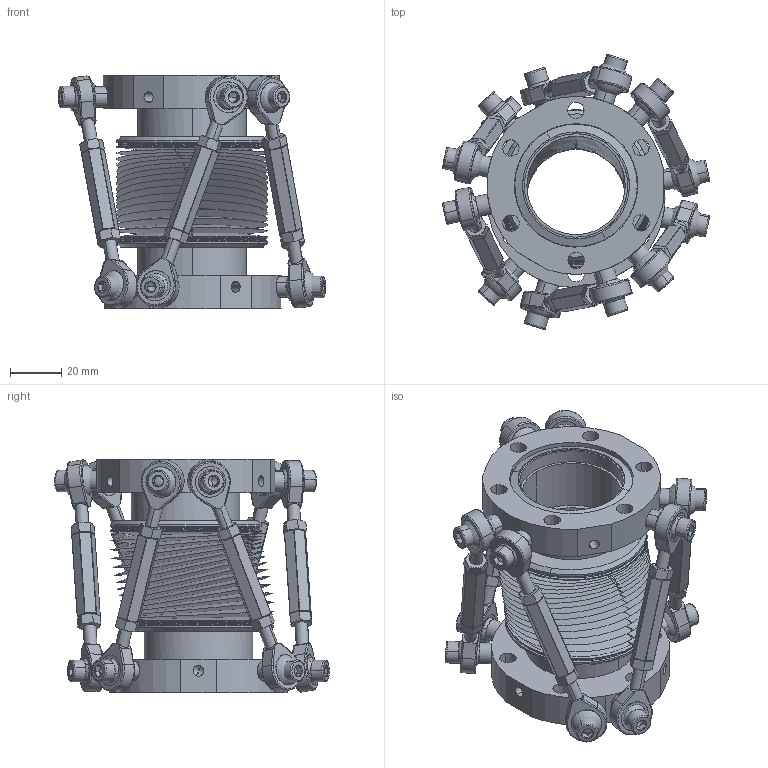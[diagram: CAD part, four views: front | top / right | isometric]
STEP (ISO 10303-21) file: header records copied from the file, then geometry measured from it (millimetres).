
FILE_DESCRIPTION(('Confidential','CAx-IF Rec.Pracs.--- Model Styling and Organization---1.2---2011-12-15'),'2;1');
FILE_NAME('W:\KONSTRUKTION\PRODUCTS\PA\PA40HEX\PA40HEX\PA40(HEX)_lateral_5mm.stp','2024-04-19T11:26:28+00:00',('none'),('Ferrovac AG'),'CATIA Version 5 Release 21 SP 6 (IN-10)','CATIA V5 STEP AP214','PROPERTY OF FERROVAC AG');
FILE_SCHEMA(('AUTOMOTIVE_DESIGN { 1 0 10303 214 1 1 1 1 }'));
Products named in the file (1): PA40(HEX)_lateral_5mm
Bounding box: 104.3 x 107.25 x 91.1 mm (x, y, z)
Volume: 143969.2 mm3; surface area: 125956.8 mm2
Topology: 3 solids, 57 shells, 2132 faces, 5425 edges, 3192 vertices
Faces by surface type: plane 674, cylinder 490, cone 398, sphere 314, bspline 128, torus 128
Entity records: 76119 total; most frequent: CARTESIAN_POINT 30898, ORIENTED_EDGE 10298, DIRECTION 6919, EDGE_CURVE 5149, AXIS2_PLACEMENT_3D 3644, VERTEX_POINT 3192, EDGE_LOOP 2363, ADVANCED_FACE 2130
